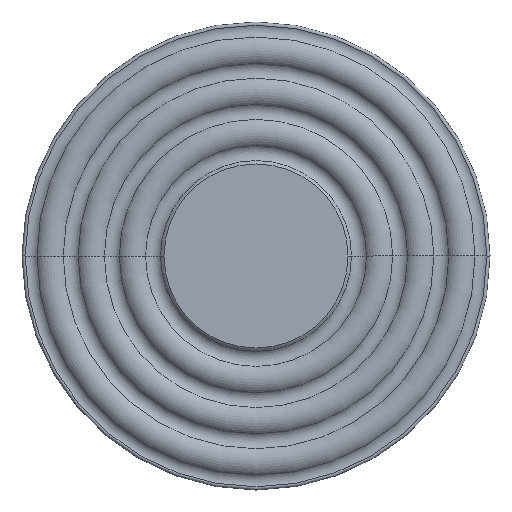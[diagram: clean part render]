
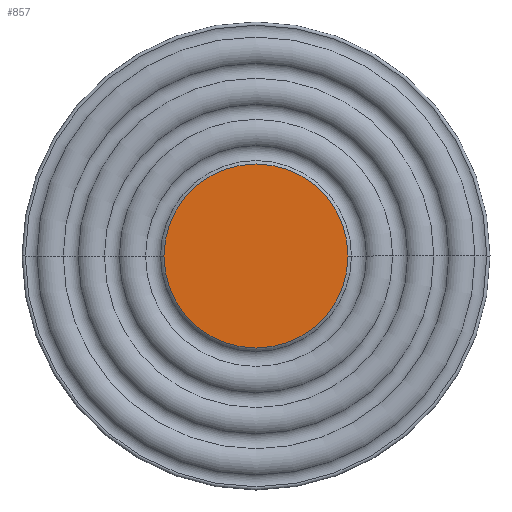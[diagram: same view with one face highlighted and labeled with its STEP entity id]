
A CAD part, front view. The second image highlights one B-rep face of the part: STEP entity #857.
In plain terms, the highlighted planar face has unit normal (0, -1, 0).
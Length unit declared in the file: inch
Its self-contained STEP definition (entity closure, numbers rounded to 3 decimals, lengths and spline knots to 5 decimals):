
#94 = PLANE ( 'NONE',  #229 ) ;
#229 = AXIS2_PLACEMENT_3D ( 'NONE', #1337, #544, #795 ) ;
#269 = VERTEX_POINT ( 'NONE', #342 ) ;
#326 = CARTESIAN_POINT ( 'NONE',  ( 0., -1.55402, 0. ) ) ;
#342 = CARTESIAN_POINT ( 'NONE',  ( 0., -1.55402, 3.935 ) ) ;
#350 = CARTESIAN_POINT ( 'NONE',  ( 0., -1.55402, -3.935 ) ) ;
#458 = DIRECTION ( 'NONE',  ( 0., 0., -1. ) ) ;
#519 = ORIENTED_EDGE ( 'NONE', *, *, #709, .T. ) ;
#544 = DIRECTION ( 'NONE',  ( 0., -1., 0. ) ) ;
#578 = DIRECTION ( 'NONE',  ( 0., 0., -1. ) ) ;
#598 = AXIS2_PLACEMENT_3D ( 'NONE', #326, #844, #578 ) ;
#702 = EDGE_CURVE ( 'NONE', #1088, #269, #1056, .T. ) ;
#709 = EDGE_CURVE ( 'NONE', #269, #1088, #1741, .T. ) ;
#795 = DIRECTION ( 'NONE',  ( 0., 0., -1. ) ) ;
#844 = DIRECTION ( 'NONE',  ( 0., -1., 0. ) ) ;
#857 = ADVANCED_FACE ( 'NONE', ( #877 ), #94, .T. ) ;
#877 = FACE_OUTER_BOUND ( 'NONE', #1033, .T. ) ;
#1033 = EDGE_LOOP ( 'NONE', ( #519, #1775 ) ) ;
#1056 = CIRCLE ( 'NONE', #1288, 3.935 ) ;
#1088 = VERTEX_POINT ( 'NONE', #350 ) ;
#1254 = CARTESIAN_POINT ( 'NONE',  ( 0., -1.55402, 0. ) ) ;
#1288 = AXIS2_PLACEMENT_3D ( 'NONE', #1254, #1517, #458 ) ;
#1337 = CARTESIAN_POINT ( 'NONE',  ( 0., -1.55402, 0. ) ) ;
#1517 = DIRECTION ( 'NONE',  ( 0., -1., 0. ) ) ;
#1741 = CIRCLE ( 'NONE', #598, 3.935 ) ;
#1775 = ORIENTED_EDGE ( 'NONE', *, *, #702, .T. ) ;
